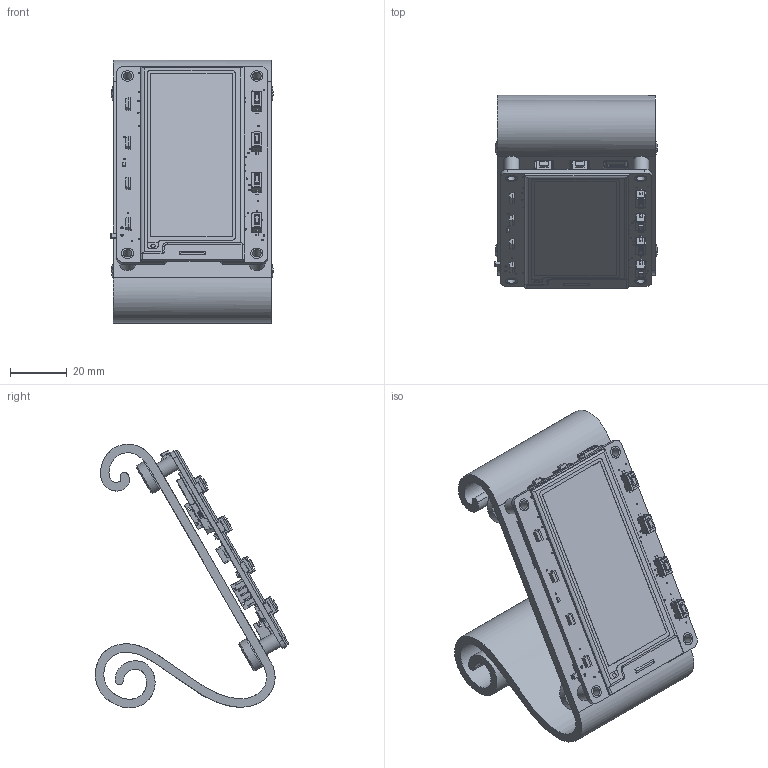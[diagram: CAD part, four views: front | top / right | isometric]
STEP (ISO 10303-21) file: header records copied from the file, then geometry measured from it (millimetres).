
FILE_DESCRIPTION(/* description */ (''),/* implementation_level */ '2;1');
FILE_NAME(/* name */ '/Users/emac5k/Dropbox/3D/Products/MagTag Christmas/cad/Fancy Stand Portrait.step',/* time_stamp */ '2020-12-06T12:24:08-05:00',/* author */ (''),/* organization */ (''),/* preprocessor_version */ 'ST-DEVELOPER v18.1',/* originating_system */ 'Autodesk Translation Framework v9.3.0.1241',/* authorisation */ '');
FILE_SCHEMA (('AUTOMOTIVE_DESIGN { 1 0 10303 214 3 1 1 }'));
Products named in the file (33): Fancy Stand MagTag; stand; Adafruit MagTag 2.9in v5; PCB Component; Board; ORANGE; 10uF; 100K; SPDT R/A; AP2112K-3.3; JSTPH; MBR0530; DMG3415U-7; USB C; ESP32-S2-WROVER; STEMMA_I2C_QT; RA_TACT; 10uH; DNP; IRLML0100; EINK_24PIN_290IN; TACTILE_3X6MM; WS2812B_4020; JST PH 3; 3.6V; LIS3DH; 7.5mm SPK; PAM8301; ALS-PT19-315C; stamdoffs; screen; thumbscrews; Component3
Assembly tree (106 placements, depth 4):
  Fancy Stand MagTag
    stand
    Adafruit MagTag 2.9in v5
      PCB Component
        Board
        ORANGE  x3
        10uF  x22
        100K  x33
        SPDT R/A
        AP2112K-3.3  x2
        JSTPH
        MBR0530  x4
        DMG3415U-7  x3
        USB C
        ESP32-S2-WROVER
        STEMMA_I2C_QT
        RA_TACT  x2
        10uH
        DNP  x2
        IRLML0100
        EINK_24PIN_290IN
        TACTILE_3X6MM  x4
        WS2812B_4020  x4
        JST PH 3  x2
        3.6V  x2
        LIS3DH
        7.5mm SPK
        PAM8301
        ALS-PT19-315C
        stamdoffs
        screen
    thumbscrews
      Component3  x4
Bounding box: 57.29 x 68.4 x 93.15 mm (x, y, z)
Volume: 56146.4 mm3; surface area: 57342.2 mm2
Topology: 162 solids, 162 shells, 4705 faces, 12205 edges, 7804 vertices
Faces by surface type: plane 3577, cylinder 900, sphere 107, bspline 65, torus 39, cone 17
Full cylindrical faces by diameter (mm): 0.394 x3, 0.4 x12, 0.5 x131, 0.65 x2, 0.8 x4, 0.838 x2, 0.9 x2, 1 x6, 1.2 x1, 1.497 x1, 1.6 x1, 1.72 x1, 1.86 x1, 2 x2, 3 x8, 3.5 x4, 4.25 x8, 5.5 x4, 11.4 x4
Entity records: 93602 total; most frequent: CARTESIAN_POINT 18025, ORIENTED_EDGE 15010, DIRECTION 14876, EDGE_CURVE 7505, LINE 5936, VECTOR 5936, VERTEX_POINT 4788, AXIS2_PLACEMENT_3D 4470
